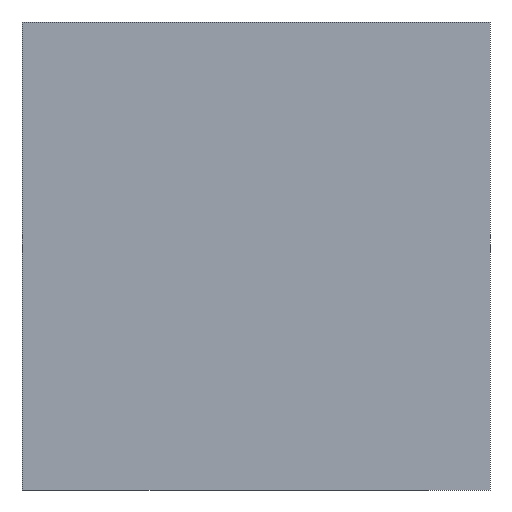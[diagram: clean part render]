
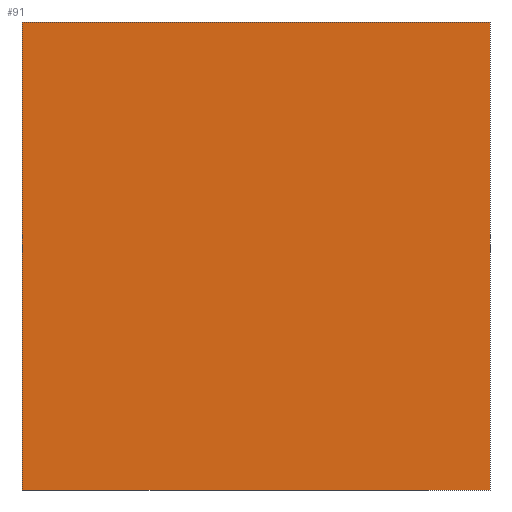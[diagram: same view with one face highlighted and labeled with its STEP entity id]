
A CAD part, left-side view. The second image highlights one B-rep face of the part: STEP entity #91.
In plain terms, the highlighted planar face has unit normal (-1, 0, 0).
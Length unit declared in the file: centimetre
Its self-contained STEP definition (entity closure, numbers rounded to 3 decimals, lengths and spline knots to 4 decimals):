
#4 = CARTESIAN_POINT ( 'NONE',  ( 0., 1000., 1000. ) ) ;
#5 = DIRECTION ( 'NONE',  ( 0., 0., -1. ) ) ;
#43 = ORIENTED_EDGE ( 'NONE', *, *, #138, .T. ) ;
#76 = LINE ( 'NONE', #113, #505 ) ;
#85 = VECTOR ( 'NONE', #567, 100. ) ;
#91 = ADVANCED_FACE ( 'NONE', ( #94 ), #472, .F. ) ;
#94 = FACE_OUTER_BOUND ( 'NONE', #444, .T. ) ;
#109 = DIRECTION ( 'NONE',  ( 0., -1., 0. ) ) ;
#110 = CARTESIAN_POINT ( 'NONE',  ( 0., 0., 0. ) ) ;
#113 = CARTESIAN_POINT ( 'NONE',  ( 0., 0., 1000. ) ) ;
#114 = EDGE_CURVE ( 'NONE', #473, #391, #120, .T. ) ;
#120 = LINE ( 'NONE', #490, #263 ) ;
#138 = EDGE_CURVE ( 'NONE', #556, #473, #150, .T. ) ;
#150 = LINE ( 'NONE', #338, #85 ) ;
#219 = VERTEX_POINT ( 'NONE', #240 ) ;
#240 = CARTESIAN_POINT ( 'NONE',  ( 0., 0., 1000. ) ) ;
#263 = VECTOR ( 'NONE', #109, 100. ) ;
#272 = ORIENTED_EDGE ( 'NONE', *, *, #114, .T. ) ;
#290 = EDGE_CURVE ( 'NONE', #556, #219, #332, .T. ) ;
#309 = DIRECTION ( 'NONE',  ( 0., 0., -1. ) ) ;
#316 = CARTESIAN_POINT ( 'NONE',  ( 0., 1000., 0. ) ) ;
#323 = ORIENTED_EDGE ( 'NONE', *, *, #412, .F. ) ;
#331 = CARTESIAN_POINT ( 'NONE',  ( 0., 1000., 1000. ) ) ;
#332 = LINE ( 'NONE', #341, #469 ) ;
#338 = CARTESIAN_POINT ( 'NONE',  ( 0., 1000., 1000. ) ) ;
#341 = CARTESIAN_POINT ( 'NONE',  ( 0., 1000., 1000. ) ) ;
#391 = VERTEX_POINT ( 'NONE', #110 ) ;
#411 = ORIENTED_EDGE ( 'NONE', *, *, #290, .F. ) ;
#412 = EDGE_CURVE ( 'NONE', #219, #391, #76, .T. ) ;
#427 = DIRECTION ( 'NONE',  ( 1., 0., 0. ) ) ;
#438 = DIRECTION ( 'NONE',  ( 0., -1., 0. ) ) ;
#444 = EDGE_LOOP ( 'NONE', ( #272, #323, #411, #43 ) ) ;
#469 = VECTOR ( 'NONE', #438, 100. ) ;
#472 = PLANE ( 'NONE',  #561 ) ;
#473 = VERTEX_POINT ( 'NONE', #316 ) ;
#490 = CARTESIAN_POINT ( 'NONE',  ( 0., 1000., 0. ) ) ;
#505 = VECTOR ( 'NONE', #309, 100. ) ;
#556 = VERTEX_POINT ( 'NONE', #4 ) ;
#561 = AXIS2_PLACEMENT_3D ( 'NONE', #331, #427, #5 ) ;
#567 = DIRECTION ( 'NONE',  ( 0., 0., -1. ) ) ;
